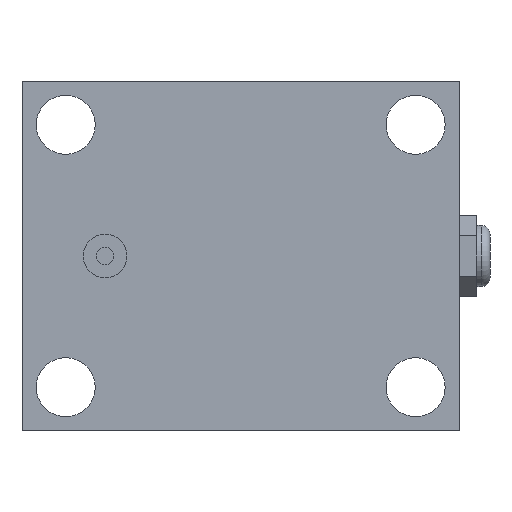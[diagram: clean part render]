
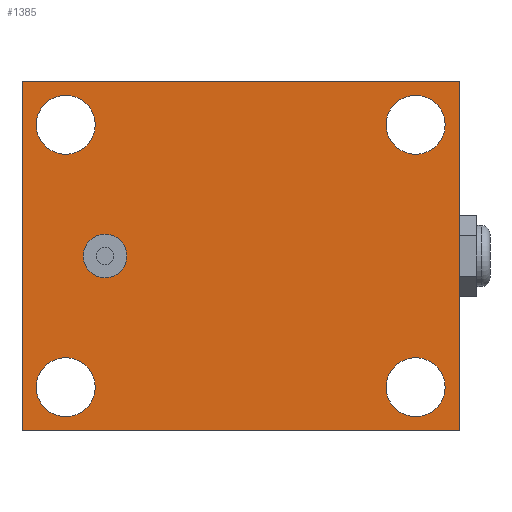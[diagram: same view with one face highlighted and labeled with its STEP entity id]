
A CAD part, front view. The second image highlights one B-rep face of the part: STEP entity #1385.
In plain terms, the highlighted planar face has unit normal (0, -1, 0).
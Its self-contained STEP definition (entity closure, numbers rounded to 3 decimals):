
#12 = FACE_BOUND ( 'NONE', #100, .T. ) ;
#17 = EDGE_CURVE ( 'NONE', #167, #1737, #1109, .T. ) ;
#29 = CIRCLE ( 'NONE', #1053, 6.75 ) ;
#59 = EDGE_CURVE ( 'NONE', #1686, #1401, #1188, .T. ) ;
#82 = CIRCLE ( 'NONE', #1324, 6.75 ) ;
#85 = ORIENTED_EDGE ( 'NONE', *, *, #369, .F. ) ;
#88 = EDGE_CURVE ( 'NONE', #1296, #1442, #82, .T. ) ;
#100 = EDGE_LOOP ( 'NONE', ( #1372, #819 ) ) ;
#142 = CARTESIAN_POINT ( 'NONE',  ( -31., 0., 0. ) ) ;
#152 = CARTESIAN_POINT ( 'NONE',  ( 50., 0., -40. ) ) ;
#155 = CARTESIAN_POINT ( 'NONE',  ( 40., 0., -36.75 ) ) ;
#167 = VERTEX_POINT ( 'NONE', #625 ) ;
#178 = DIRECTION ( 'NONE',  ( 0., 1., 0. ) ) ;
#189 = ORIENTED_EDGE ( 'NONE', *, *, #285, .F. ) ;
#198 = CARTESIAN_POINT ( 'NONE',  ( 50., 0., -40. ) ) ;
#243 = CARTESIAN_POINT ( 'NONE',  ( 40., 0., 30. ) ) ;
#254 = CARTESIAN_POINT ( 'NONE',  ( 40., 0., 23.25 ) ) ;
#272 = DIRECTION ( 'NONE',  ( 0., 0., 1. ) ) ;
#285 = EDGE_CURVE ( 'NONE', #1401, #873, #668, .T. ) ;
#294 = DIRECTION ( 'NONE',  ( 0., 1., 0. ) ) ;
#309 = CARTESIAN_POINT ( 'NONE',  ( -31., 0., 0. ) ) ;
#312 = DIRECTION ( 'NONE',  ( 0., 0., 1. ) ) ;
#314 = DIRECTION ( 'NONE',  ( 0., 1., 0. ) ) ;
#330 = EDGE_CURVE ( 'NONE', #1442, #1296, #1312, .T. ) ;
#336 = AXIS2_PLACEMENT_3D ( 'NONE', #672, #964, #548 ) ;
#343 = ORIENTED_EDGE ( 'NONE', *, *, #777, .T. ) ;
#369 = EDGE_CURVE ( 'NONE', #1465, #963, #404, .T. ) ;
#370 = ORIENTED_EDGE ( 'NONE', *, *, #1716, .F. ) ;
#379 = CARTESIAN_POINT ( 'NONE',  ( -40., 0., 23.25 ) ) ;
#380 = AXIS2_PLACEMENT_3D ( 'NONE', #1309, #461, #478 ) ;
#397 = CARTESIAN_POINT ( 'NONE',  ( -50., 0., 40. ) ) ;
#398 = EDGE_CURVE ( 'NONE', #1319, #1466, #1061, .T. ) ;
#399 = CARTESIAN_POINT ( 'NONE',  ( 40., 0., 36.75 ) ) ;
#404 = CIRCLE ( 'NONE', #483, 5. ) ;
#414 = DIRECTION ( 'NONE',  ( 0., 0., -1. ) ) ;
#430 = CARTESIAN_POINT ( 'NONE',  ( -40., 0., 30. ) ) ;
#443 = CARTESIAN_POINT ( 'NONE',  ( 40., 0., -30. ) ) ;
#461 = DIRECTION ( 'NONE',  ( 0., 1., 0. ) ) ;
#478 = DIRECTION ( 'NONE',  ( 0., 0., 1. ) ) ;
#483 = AXIS2_PLACEMENT_3D ( 'NONE', #142, #650, #414 ) ;
#497 = DIRECTION ( 'NONE',  ( 0., 1., 0. ) ) ;
#526 = LINE ( 'NONE', #1629, #708 ) ;
#531 = DIRECTION ( 'NONE',  ( 0., 0., 1. ) ) ;
#538 = CIRCLE ( 'NONE', #604, 5. ) ;
#543 = CARTESIAN_POINT ( 'NONE',  ( 40., 0., 30. ) ) ;
#548 = DIRECTION ( 'NONE',  ( 0., 0., 1. ) ) ;
#549 = EDGE_CURVE ( 'NONE', #963, #1465, #538, .T. ) ;
#571 = EDGE_CURVE ( 'NONE', #1466, #1319, #1268, .T. ) ;
#574 = DIRECTION ( 'NONE',  ( 0., 0., 1. ) ) ;
#580 = ORIENTED_EDGE ( 'NONE', *, *, #330, .T. ) ;
#591 = FACE_BOUND ( 'NONE', #1453, .T. ) ;
#594 = DIRECTION ( 'NONE',  ( 0., 1., 0. ) ) ;
#604 = AXIS2_PLACEMENT_3D ( 'NONE', #309, #1159, #1416 ) ;
#608 = DIRECTION ( 'NONE',  ( 0., 0., -1. ) ) ;
#611 = ORIENTED_EDGE ( 'NONE', *, *, #1529, .F. ) ;
#625 = CARTESIAN_POINT ( 'NONE',  ( -40., 0., -36.75 ) ) ;
#627 = CARTESIAN_POINT ( 'NONE',  ( -50., 0., -40. ) ) ;
#638 = VECTOR ( 'NONE', #608, 1000. ) ;
#650 = DIRECTION ( 'NONE',  ( 0., -1., 0. ) ) ;
#668 = LINE ( 'NONE', #627, #1203 ) ;
#672 = CARTESIAN_POINT ( 'NONE',  ( -40., 0., 30. ) ) ;
#678 = EDGE_LOOP ( 'NONE', ( #343, #1740 ) ) ;
#698 = AXIS2_PLACEMENT_3D ( 'NONE', #443, #314, #574 ) ;
#708 = VECTOR ( 'NONE', #531, 1000. ) ;
#714 = CARTESIAN_POINT ( 'NONE',  ( -40., 0., -30. ) ) ;
#755 = VECTOR ( 'NONE', #1295, 1000. ) ;
#768 = VERTEX_POINT ( 'NONE', #1274 ) ;
#777 = EDGE_CURVE ( 'NONE', #768, #1622, #29, .T. ) ;
#806 = DIRECTION ( 'NONE',  ( 0., 0., 1. ) ) ;
#817 = AXIS2_PLACEMENT_3D ( 'NONE', #1108, #294, #272 ) ;
#819 = ORIENTED_EDGE ( 'NONE', *, *, #571, .T. ) ;
#826 = PLANE ( 'NONE',  #817 ) ;
#829 = CARTESIAN_POINT ( 'NONE',  ( 50., 0., 40. ) ) ;
#831 = FACE_BOUND ( 'NONE', #678, .T. ) ;
#854 = DIRECTION ( 'NONE',  ( 0., 0., 1. ) ) ;
#861 = CARTESIAN_POINT ( 'NONE',  ( -40., 0., -23.25 ) ) ;
#866 = CARTESIAN_POINT ( 'NONE',  ( -50., 0., -40. ) ) ;
#867 = DIRECTION ( 'NONE',  ( 0., 0., 1. ) ) ;
#873 = VERTEX_POINT ( 'NONE', #866 ) ;
#876 = CARTESIAN_POINT ( 'NONE',  ( -31., 0., 5. ) ) ;
#910 = DIRECTION ( 'NONE',  ( -1., 0., 0. ) ) ;
#937 = AXIS2_PLACEMENT_3D ( 'NONE', #430, #594, #854 ) ;
#939 = EDGE_CURVE ( 'NONE', #1737, #167, #1439, .T. ) ;
#946 = LINE ( 'NONE', #1543, #755 ) ;
#963 = VERTEX_POINT ( 'NONE', #876 ) ;
#964 = DIRECTION ( 'NONE',  ( 0., 1., 0. ) ) ;
#1008 = AXIS2_PLACEMENT_3D ( 'NONE', #543, #1398, #806 ) ;
#1053 = AXIS2_PLACEMENT_3D ( 'NONE', #1674, #178, #867 ) ;
#1061 = CIRCLE ( 'NONE', #336, 6.75 ) ;
#1082 = CARTESIAN_POINT ( 'NONE',  ( -40., 0., 36.75 ) ) ;
#1104 = CIRCLE ( 'NONE', #698, 6.75 ) ;
#1108 = CARTESIAN_POINT ( 'NONE',  ( 0., 0., 0. ) ) ;
#1109 = CIRCLE ( 'NONE', #380, 6.75 ) ;
#1113 = EDGE_LOOP ( 'NONE', ( #1490, #1611 ) ) ;
#1159 = DIRECTION ( 'NONE',  ( 0., -1., 0. ) ) ;
#1169 = FACE_BOUND ( 'NONE', #1113, .T. ) ;
#1187 = ORIENTED_EDGE ( 'NONE', *, *, #88, .T. ) ;
#1188 = LINE ( 'NONE', #198, #638 ) ;
#1203 = VECTOR ( 'NONE', #910, 1000. ) ;
#1268 = CIRCLE ( 'NONE', #937, 6.75 ) ;
#1274 = CARTESIAN_POINT ( 'NONE',  ( 40., 0., -23.25 ) ) ;
#1295 = DIRECTION ( 'NONE',  ( 1., 0., 0. ) ) ;
#1296 = VERTEX_POINT ( 'NONE', #399 ) ;
#1309 = CARTESIAN_POINT ( 'NONE',  ( -40., 0., -30. ) ) ;
#1312 = CIRCLE ( 'NONE', #1008, 6.75 ) ;
#1319 = VERTEX_POINT ( 'NONE', #1082 ) ;
#1324 = AXIS2_PLACEMENT_3D ( 'NONE', #243, #497, #1352 ) ;
#1338 = ORIENTED_EDGE ( 'NONE', *, *, #59, .F. ) ;
#1352 = DIRECTION ( 'NONE',  ( 0., 0., 1. ) ) ;
#1372 = ORIENTED_EDGE ( 'NONE', *, *, #398, .T. ) ;
#1373 = AXIS2_PLACEMENT_3D ( 'NONE', #714, #1432, #312 ) ;
#1385 = ADVANCED_FACE ( 'NONE', ( #591, #831, #1506, #12, #1169, #1718 ), #826, .F. ) ;
#1398 = DIRECTION ( 'NONE',  ( 0., 1., 0. ) ) ;
#1401 = VERTEX_POINT ( 'NONE', #152 ) ;
#1416 = DIRECTION ( 'NONE',  ( 0., 0., -1. ) ) ;
#1428 = EDGE_LOOP ( 'NONE', ( #1187, #580 ) ) ;
#1432 = DIRECTION ( 'NONE',  ( 0., 1., 0. ) ) ;
#1439 = CIRCLE ( 'NONE', #1373, 6.75 ) ;
#1442 = VERTEX_POINT ( 'NONE', #254 ) ;
#1453 = EDGE_LOOP ( 'NONE', ( #85, #1521 ) ) ;
#1465 = VERTEX_POINT ( 'NONE', #1491 ) ;
#1466 = VERTEX_POINT ( 'NONE', #379 ) ;
#1488 = VERTEX_POINT ( 'NONE', #397 ) ;
#1490 = ORIENTED_EDGE ( 'NONE', *, *, #939, .T. ) ;
#1491 = CARTESIAN_POINT ( 'NONE',  ( -31., 0., -5. ) ) ;
#1506 = FACE_BOUND ( 'NONE', #1428, .T. ) ;
#1521 = ORIENTED_EDGE ( 'NONE', *, *, #549, .F. ) ;
#1529 = EDGE_CURVE ( 'NONE', #873, #1488, #526, .T. ) ;
#1543 = CARTESIAN_POINT ( 'NONE',  ( -50., 0., 40. ) ) ;
#1611 = ORIENTED_EDGE ( 'NONE', *, *, #17, .T. ) ;
#1622 = VERTEX_POINT ( 'NONE', #155 ) ;
#1629 = CARTESIAN_POINT ( 'NONE',  ( -50., 0., -40. ) ) ;
#1639 = EDGE_LOOP ( 'NONE', ( #1338, #370, #611, #189 ) ) ;
#1674 = CARTESIAN_POINT ( 'NONE',  ( 40., 0., -30. ) ) ;
#1686 = VERTEX_POINT ( 'NONE', #829 ) ;
#1687 = EDGE_CURVE ( 'NONE', #1622, #768, #1104, .T. ) ;
#1716 = EDGE_CURVE ( 'NONE', #1488, #1686, #946, .T. ) ;
#1718 = FACE_OUTER_BOUND ( 'NONE', #1639, .T. ) ;
#1737 = VERTEX_POINT ( 'NONE', #861 ) ;
#1740 = ORIENTED_EDGE ( 'NONE', *, *, #1687, .T. ) ;
